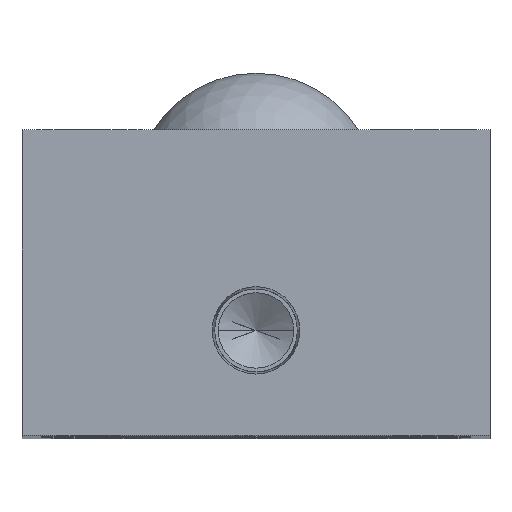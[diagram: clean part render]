
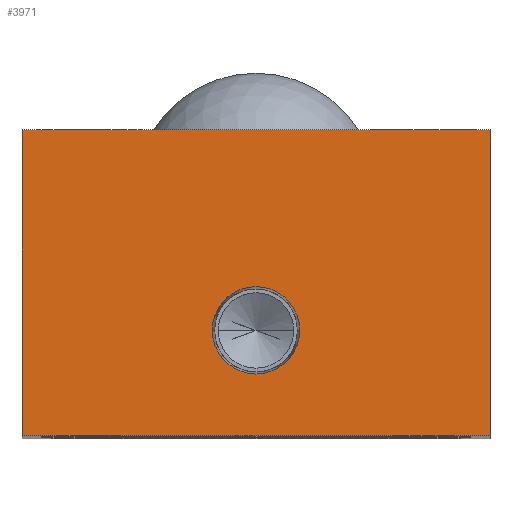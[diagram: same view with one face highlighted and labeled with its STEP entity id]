
A CAD part, top view. The second image highlights one B-rep face of the part: STEP entity #3971.
In plain terms, the highlighted planar face has unit normal (0, 0, 1).
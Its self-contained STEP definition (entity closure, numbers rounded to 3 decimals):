
#92 = EDGE_CURVE ( 'NONE', #3708, #2695, #3948, .T. ) ;
#110 = EDGE_CURVE ( 'NONE', #649, #4044, #2994, .T. ) ;
#152 = DIRECTION ( 'NONE',  ( 0., 0., 1. ) ) ;
#156 = VECTOR ( 'NONE', #405, 1000. ) ;
#162 = PLANE ( 'NONE',  #3545 ) ;
#207 = LINE ( 'NONE', #4137, #319 ) ;
#319 = VECTOR ( 'NONE', #4499, 1000. ) ;
#321 = ORIENTED_EDGE ( 'NONE', *, *, #374, .T. ) ;
#374 = EDGE_CURVE ( 'NONE', #2365, #649, #207, .T. ) ;
#405 = DIRECTION ( 'NONE',  ( 0., -1., 0. ) ) ;
#500 = DIRECTION ( 'NONE',  ( 1., 0., 0. ) ) ;
#627 = VERTEX_POINT ( 'NONE', #1923 ) ;
#649 = VERTEX_POINT ( 'NONE', #1341 ) ;
#671 = CIRCLE ( 'NONE', #2343, 4.574 ) ;
#794 = EDGE_LOOP ( 'NONE', ( #1267, #1313, #4441, #321 ) ) ;
#843 = LINE ( 'NONE', #1551, #3591 ) ;
#1197 = ORIENTED_EDGE ( 'NONE', *, *, #3968, .F. ) ;
#1217 = EDGE_CURVE ( 'NONE', #4044, #627, #3150, .T. ) ;
#1229 = CARTESIAN_POINT ( 'NONE',  ( 0., 11., 0. ) ) ;
#1256 = CARTESIAN_POINT ( 'NONE',  ( -24.5, 0., 0. ) ) ;
#1267 = ORIENTED_EDGE ( 'NONE', *, *, #110, .T. ) ;
#1301 = EDGE_LOOP ( 'NONE', ( #1197, #2405 ) ) ;
#1313 = ORIENTED_EDGE ( 'NONE', *, *, #1217, .T. ) ;
#1341 = CARTESIAN_POINT ( 'NONE',  ( -24.5, 32., 0. ) ) ;
#1551 = CARTESIAN_POINT ( 'NONE',  ( 24.5, 32., 0. ) ) ;
#1578 = DIRECTION ( 'NONE',  ( 1., 0., 0. ) ) ;
#1622 = FACE_BOUND ( 'NONE', #1301, .T. ) ;
#1923 = CARTESIAN_POINT ( 'NONE',  ( 24.5, 0., 0. ) ) ;
#1950 = DIRECTION ( 'NONE',  ( -1., 0., 0. ) ) ;
#2086 = VECTOR ( 'NONE', #2468, 1000. ) ;
#2122 = CARTESIAN_POINT ( 'NONE',  ( 24.5, 0., 0. ) ) ;
#2343 = AXIS2_PLACEMENT_3D ( 'NONE', #1229, #3730, #1578 ) ;
#2365 = VERTEX_POINT ( 'NONE', #3189 ) ;
#2405 = ORIENTED_EDGE ( 'NONE', *, *, #92, .F. ) ;
#2406 = CARTESIAN_POINT ( 'NONE',  ( -4.574, 11., 0. ) ) ;
#2468 = DIRECTION ( 'NONE',  ( 1., 0., 0. ) ) ;
#2695 = VERTEX_POINT ( 'NONE', #3410 ) ;
#2994 = LINE ( 'NONE', #3962, #156 ) ;
#3150 = LINE ( 'NONE', #2122, #2086 ) ;
#3189 = CARTESIAN_POINT ( 'NONE',  ( 24.5, 32., 0. ) ) ;
#3190 = EDGE_CURVE ( 'NONE', #627, #2365, #843, .T. ) ;
#3368 = AXIS2_PLACEMENT_3D ( 'NONE', #3627, #152, #500 ) ;
#3372 = CARTESIAN_POINT ( 'NONE',  ( 0., 0., 0. ) ) ;
#3410 = CARTESIAN_POINT ( 'NONE',  ( 4.574, 11., 0. ) ) ;
#3545 = AXIS2_PLACEMENT_3D ( 'NONE', #3372, #4089, #1950 ) ;
#3591 = VECTOR ( 'NONE', #3694, 1000. ) ;
#3627 = CARTESIAN_POINT ( 'NONE',  ( 0., 11., 0. ) ) ;
#3694 = DIRECTION ( 'NONE',  ( 0., 1., 0. ) ) ;
#3708 = VERTEX_POINT ( 'NONE', #2406 ) ;
#3730 = DIRECTION ( 'NONE',  ( 0., 0., 1. ) ) ;
#3948 = CIRCLE ( 'NONE', #3368, 4.574 ) ;
#3962 = CARTESIAN_POINT ( 'NONE',  ( -24.5, 0., 0. ) ) ;
#3968 = EDGE_CURVE ( 'NONE', #2695, #3708, #671, .T. ) ;
#3971 = ADVANCED_FACE ( 'NONE', ( #1622, #4374 ), #162, .F. ) ;
#4044 = VERTEX_POINT ( 'NONE', #1256 ) ;
#4089 = DIRECTION ( 'NONE',  ( 0., 0., -1. ) ) ;
#4137 = CARTESIAN_POINT ( 'NONE',  ( -24.5, 32., 0. ) ) ;
#4374 = FACE_OUTER_BOUND ( 'NONE', #794, .T. ) ;
#4441 = ORIENTED_EDGE ( 'NONE', *, *, #3190, .T. ) ;
#4499 = DIRECTION ( 'NONE',  ( -1., 0., 0. ) ) ;
